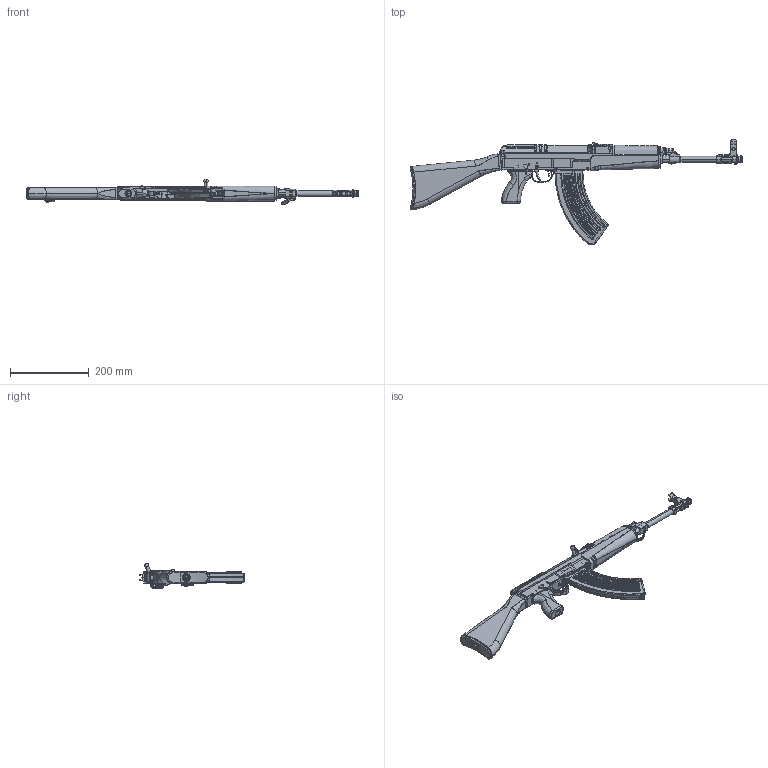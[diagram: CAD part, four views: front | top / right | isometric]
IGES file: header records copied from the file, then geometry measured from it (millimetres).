
Start section: SolidWorks IGES file using analytic representation for surfaces
Global section: file name: D:\SW2011-VZ-58.IGS; native system: SolidWorks 2014; preprocessor: SolidWorks 2014; author: Ayoub; date: 140701.111544; units: millimetre
Bounding box: 840.72 x 265.35 x 65.64 mm (x, y, z)
Surface area: 247572.7 mm2 (no closed solid volume)
Topology: 0 solids, 0 shells, 1862 faces, 28649 edges, 28614 vertices
Faces by surface type: bspline 1116, revolution 746
